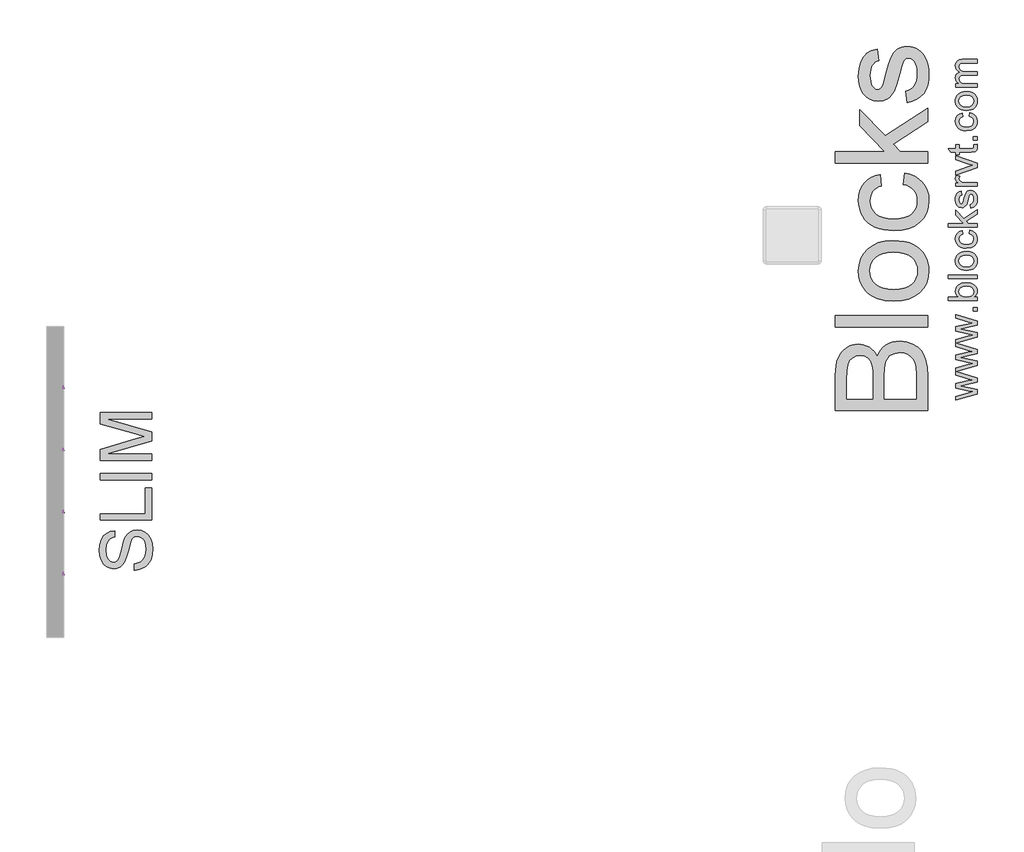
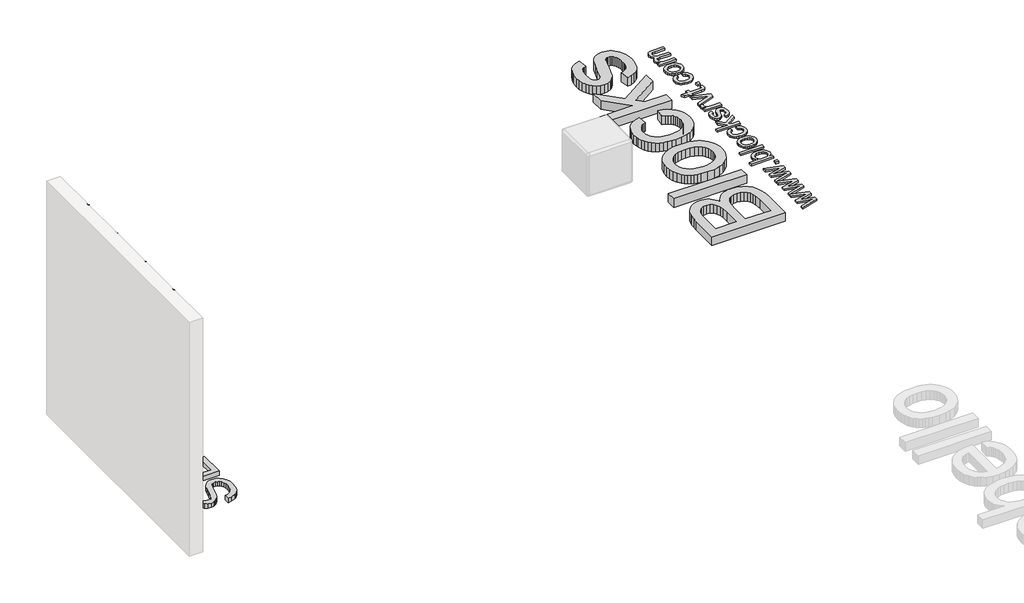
# One storey, part 4 of 4: 15 proxies.
"""IFC4 building model written with IfcOpenShell, lengths in millimetres."""

from ifc_helpers import new_model, si_unit, origin, origin_with_axes, place, context, project, spatial, polyline, outline, extrude, transform, mapped, element, save
from components import black_mate_18039f9f, black_mate_524d391c

model = new_model("IFC4")

# Units and contexts
model_context = context("Model", 3, world=origin())
ifc_project = project(units=[si_unit("LENGTHUNIT", "METRE", prefix="MILLI")], contexts=[model_context])

# Site, building, storey
site = spatial("IfcSite", under=ifc_project)
building = spatial("IfcBuilding", under=site)
storey = spatial("IfcBuildingStorey", under=building, Name="PORTOBELLO - SHOWROOM", Elevation=0.0)

# Proxies
placement = place(None, origin())
element("IfcBuildingElementProxy", 1, Name="25mm Arial", ObjectType="25mm Arial", at=placement, inside=storey, context=model_context, shape_type="SweptSolid", body=[
    extrude(outline(polyline([(63153.2790419, 27046.7572012), (62975.2590594, 26992.3687824), (63153.2790419, 26937.802817), (63153.2790419, 26899.9109715), (63045.1217353, 26875.7533871), (63011.3992191, 26868.7636292), (63153.2790419, 26837.6776006), (63153.2790419, 26799.5405005), (62975.2590594, 26745.1520816), (63153.2790419, 26690.5861162), (63153.2790419, 26652.6942707), (63045.1217353, 26628.5366864), (63011.3992191, 26621.5469285), (63153.2790419, 26590.4608999), (63153.2790419, 26552.3237997), (62968.847535, 26495.9765408), (62968.847535, 26528.5340974), (63076.4530186, 26560.4172036), (63114.8966871, 26569.9208218), (63077.8632329, 26577.7076574), (62968.847535, 26603.0302014), (62968.847535, 26640.3089102), (63077.5566646, 26665.6314542), (63111.0952398, 26672.5598985), (63075.7172546, 26682.4927123), (62968.847535, 26714.3758186), (62968.847535, 26743.1932415), (62968.847535, 26747.1173162), (62968.847535, 26775.7507981), (63076.4530186, 26807.6339044), (63114.8966871, 26817.1375226), (63077.8632329, 26824.9243581), (62968.847535, 26850.2469021), (62968.847535, 26887.525611), (63077.5566646, 26912.848155), (63111.0952398, 26919.7765992), (63075.7172546, 26929.7094131), (62968.847535, 26961.5925194), (62968.847535, 26990.4099423), (62968.847535, 26994.3340169), (62968.847535, 27022.9674989), (63076.4530186, 27054.8506051), (63114.8966871, 27064.3542233), (63077.8632329, 27072.1410589), (62968.847535, 27097.4636029), (62968.847535, 27134.7423117), (63077.5566646, 27160.0648557), (63111.0952398, 27166.9933), (63075.7172546, 27176.9261139), (62968.847535, 27208.8092201), (62968.847535, 27241.5507177), (63153.2790419, 27185.0195178), (63153.2790419, 27147.1276723), (63045.1217353, 27122.9700879), (63011.3992191, 27115.98033), (63153.2790419, 27084.8943014), (63153.2790419, 27046.7572012)])), origin_with_axes(), (0.0, 0.0, 1.0), 20.0),
    extrude(outline(polyline([(63153.2790419, 27270.9812773), (63121.886445, 27270.9812773), (63121.886445, 27302.3738742), (63153.2790419, 27302.3738742), (63153.2790419, 27270.9812773)])), origin_with_axes(), (0.0, 0.0, 1.0), 20.0),
    extrude(outline(polyline([(63153.2790419, 27392.6275904), (63153.2790419, 27361.2349934), (62902.1382665, 27361.2349934), (62902.1382665, 27392.6275904), (62995.273725, 27392.6275904), (62981.9954842, 27402.9512789), (62972.5110265, 27414.6085396), (62966.8203519, 27427.5993725), (62964.9234604, 27441.9237777), (62966.6325788, 27458.0952571), (62971.7599341, 27473.3776883), (62979.9836295, 27486.8973516), (62990.9817684, 27497.7805273), (63020.8721805, 27512.7717186), (63058.3041735, 27518.1979781), (63100.2120641, 27512.5801134), (63117.1423001, 27505.5577826), (63131.3900632, 27495.7265195), (63142.683274, 27483.9255549), (63150.7498532, 27470.9941195), (63155.5898007, 27456.9322135), (63157.2031165, 27441.7398367), (63155.122284, 27426.9440827), (63148.8797864, 27413.8267903), (63138.4756237, 27402.3879596), (63123.909796, 27392.6275904), (63153.2790419, 27392.6275904)]), holes=[polyline([(63059.7757015, 27392.6275904), (63085.9566368, 27394.7735687), (63103.6762862, 27401.2115036), (63120.2769613, 27417.6588945), (63125.8105196, 27439.0420354), (63121.7331608, 27457.1602237), (63109.5010845, 27472.6419243), (63089.1909327, 27483.2645169), (63060.8793474, 27486.8053811), (63032.153895, 27483.4101369), (63012.0736694, 27473.2244041), (63000.2554603, 27458.2255486), (62996.3160573, 27440.3909361), (63000.3934161, 27422.2727478), (63012.6254924, 27406.7910472), (63032.5677622, 27396.1684546), (63059.7757015, 27392.6275904)])]), origin_with_axes(), (0.0, 0.0, 1.0), 20.0),
    extrude(outline(polyline([(63153.2790419, 27553.5146496), (62902.1382665, 27553.5146496), (62902.1382665, 27584.9072465), (63153.2790419, 27584.9072465), (63153.2790419, 27553.5146496)])), origin_with_axes(), (0.0, 0.0, 1.0), 20.0),
    extrude(outline(polyline([(63061.0632884, 27624.1479927), (63037.1777835, 27625.8456148), (63016.5955523, 27630.9384812), (62999.3165948, 27639.4265918), (62985.3409111, 27651.3099466), (62970.0278231, 27676.4792065), (62964.9234604, 27706.6148733), (62966.4773786, 27723.9340678), (62971.1391332, 27739.5939613), (62978.9087243, 27753.5945537), (62989.7861519, 27765.935845), (63003.4035339, 27776.0085306), (63019.3929883, 27783.2033061), (63037.7545152, 27787.5201714), (63058.4881145, 27788.9591265), (63090.2026081, 27786.4146094), (63114.3448641, 27778.781058), (63132.4247313, 27766.2807343), (63145.9520588, 27749.1359005), (63154.3903521, 27728.7720993), (63157.2031165, 27706.6148733), (63155.6549465, 27689.0427598), (63151.0104363, 27673.2372464), (63143.269586, 27659.198333), (63132.4323955, 27646.9260195), (63118.6828059, 27636.9606328), (63102.2047582, 27629.8424994), (63082.9982524, 27625.5716193), (63061.0632884, 27624.1479927)]), holes=[polyline([(63061.0019748, 27655.5405896), (63089.4131947, 27659.1734243), (63109.6543686, 27670.0719284), (63121.7714819, 27686.473334), (63125.8105196, 27706.6148733), (63121.7484892, 27726.664442), (63109.5623981, 27743.0351908), (63089.0529769, 27753.9336949), (63060.0209561, 27757.5665296), (63032.4374707, 27753.9107023), (63012.4722082, 27742.9432203), (63000.355095, 27726.5494789), (62996.3160573, 27706.6148733), (63000.3397666, 27686.473334), (63012.4108946, 27670.0719284), (63032.6060833, 27659.1734243), (63061.0019748, 27655.5405896)])]), origin_with_axes(), (0.0, 0.0, 1.0), 20.0),
    extrude(outline(polyline([(63086.5697734, 27941.9980365), (63090.4938481, 27973.3906334), (63118.4145587, 27964.6381076), (63139.5141239, 27948.1907167), (63152.7808684, 27925.5966309), (63157.2031165, 27898.4040201), (63155.6606946, 27880.7974177), (63151.0334289, 27865.0110648), (63143.3213194, 27851.0449613), (63132.524366, 27838.8991073), (63118.8456704, 27829.0678442), (63102.4883339, 27822.0455134), (63061.7377388, 27816.4276488), (63033.8016998, 27818.826546), (63009.590466, 27826.0232375), (62990.0390708, 27838.1326865), (62976.0825476, 27855.2698561), (62967.7132322, 27875.7716132), (62964.9234604, 27897.9748244), (62968.7555645, 27924.5006491), (62980.2518768, 27945.7075133), (62998.7992608, 27960.9209666), (63023.7845796, 27969.4665588), (63027.7086542, 27938.0739619), (63014.0127141, 27932.3794552), (63004.1948634, 27923.5119662), (62998.2857588, 27911.9620044), (62996.3160573, 27898.2200791), (63000.1941467, 27877.9329199), (63011.8284148, 27861.8304184), (63031.8473267, 27851.3227889), (63060.8793474, 27847.8202457), (63090.3022429, 27851.2461468), (63110.3901326, 27861.5238501), (63121.9554229, 27877.3351116), (63125.8105196, 27897.3616877), (63123.4039582, 27913.6174734), (63116.1842741, 27926.9455315), (63103.9675261, 27936.6407549), (63086.5697734, 27941.9980365)])), origin_with_axes(), (0.0, 0.0, 1.0), 20.0),
    extrude(outline(polyline([(63153.2790419, 28000.8591557), (62902.1382665, 28000.8591557), (62902.1382665, 28032.2517526), (63037.0896451, 28032.2517526), (62968.847535, 28102.6398411), (62968.847535, 28146.0499165), (63037.9480364, 28074.7421231), (63153.2790419, 28149.9739911), (63153.2790419, 28113.3084189), (63059.7757015, 28052.2400077), (63079.2121335, 28032.2517526), (63153.2790419, 28032.2517526), (63153.2790419, 28000.8591557)])), origin_with_axes(), (0.0, 0.0, 1.0), 20.0),
    extrude(outline(polyline([(63098.3419973, 28165.6702896), (63094.4179227, 28197.0628865), (63107.8456155, 28202.013965), (63117.7171157, 28211.5942253), (63123.7871686, 28225.864981), (63125.8105196, 28244.8875459), (63123.9557812, 28263.6801844), (63118.391566, 28276.8932794), (63110.328819, 28284.7107718), (63100.9784849, 28287.3166026), (63092.9770515, 28284.6954434), (63086.8763418, 28276.8319658), (63077.9245466, 28244.5196639), (63062.5654733, 28197.2468275), (63054.8476156, 28185.2829984), (63044.631226, 28176.6147789), (63032.5677622, 28171.3494679), (63019.308682, 28169.5943642), (62995.9175185, 28175.2352214), (62978.0445849, 28190.6249516), (62968.7555645, 28210.5825498), (62964.9234604, 28237.5912196), (62966.4639662, 28258.0239988), (62971.0854838, 28275.7896335), (62978.3358248, 28290.0757176), (62987.7628009, 28300.0698451), (63000.0638551, 28306.691721), (63015.9364304, 28310.8610503), (63019.860505, 28279.4684534), (63009.9813406, 28275.5060577), (63002.5393944, 28267.6655727), (62997.8718916, 28255.8703563), (62996.3160573, 28240.0437663), (62997.8029137, 28222.0175485), (63002.2634829, 28210.00007), (63008.7014178, 28203.2402383), (63016.1203714, 28200.9869611), (63025.2561076, 28204.7270947), (63032.1845518, 28216.4380049), (63038.8677414, 28243.4773315), (63053.6443349, 28289.5545514), (63060.7107349, 28301.7253141), (63070.3829657, 28310.9530208), (63082.6916841, 28316.7701549), (63097.667547, 28318.7091996), (63113.1492476, 28316.4329297), (63127.7112432, 28309.6041202), (63140.2115669, 28298.483354), (63149.5082515, 28283.3312144), (63155.2794003, 28265.0290851), (63157.2031165, 28244.4583502), (63153.4936397, 28212.8051702), (63142.3652094, 28189.7052466), (63123.9404528, 28174.2848596), (63098.3419973, 28165.6702896)])), origin_with_axes(), (0.0, 0.0, 1.0), 20.0),
    extrude(outline(polyline([(63153.2790419, 28517.1202223), (62968.847535, 28452.1277365), (62968.847535, 28485.2984297), (63079.3347609, 28524.6618032), (63116.4908424, 28536.4953407), (63081.4194255, 28548.0836236), (62968.847535, 28587.630938), (62968.847535, 28620.8629449), (63153.2790419, 28556.7901641), (63153.2790419, 28517.1202223)])), origin_with_axes(), (0.0, 0.0, 1.0), 20.0),
    extrude(outline(polyline([(63153.2790419, 28354.0258711), (62968.847535, 28354.0258711), (62968.847535, 28381.4943934), (62996.1321163, 28381.4943934), (62980.3131905, 28391.6418051), (62970.9935133, 28400.9921391), (62964.9234604, 28420.6125122), (62967.3453502, 28436.247497), (62974.6110196, 28452.1277365), (63002.7539922, 28441.6430996), (62996.3160573, 28419.5701799), (62997.8642274, 28410.1968532), (63002.5087375, 28401.8198736), (63019.676564, 28390.5075023), (63056.3421362, 28385.418468), (63153.2790419, 28385.418468), (63153.2790419, 28354.0258711)])), origin_with_axes(), (0.0, 0.0, 1.0), 20.0),
    extrude(outline(polyline([(63127.0981066, 28715.0407357), (63154.1987469, 28718.9648103), (63157.2031165, 28695.4816763), (63155.9002011, 28680.4138429), (63151.9914549, 28669.1781136), (63138.3185074, 28656.0569891), (63102.6952676, 28652.2555419), (63000.2401319, 28652.2555419), (63000.2401319, 28628.7110942), (62968.847535, 28628.7110942), (62968.847535, 28652.2555419), (62924.0272452, 28652.2555419), (62905.5718318, 28683.6481388), (62968.847535, 28683.6481388), (62968.847535, 28715.0407357), (63000.2401319, 28715.0407357), (63000.2401319, 28683.6481388), (63101.7755626, 28683.6481388), (63117.9623704, 28685.3036078), (63123.6951981, 28690.6685535), (63125.8105196, 28701.3677882), (63127.0981066, 28715.0407357)])), origin_with_axes(), (0.0, 0.0, 1.0), 20.0),
    extrude(outline(polyline([(63153.2790419, 28754.2814818), (63121.886445, 28754.2814818), (63121.886445, 28785.6740788), (63153.2790419, 28785.6740788), (63153.2790419, 28754.2814818)])), origin_with_axes(), (0.0, 0.0, 1.0), 20.0),
    extrude(outline(polyline([(63086.5697734, 28962.2574365), (63090.4938481, 28993.6500334), (63118.4145587, 28984.8975076), (63139.5141239, 28968.4501167), (63152.7808684, 28945.8560308), (63157.2031165, 28918.66342), (63155.6606946, 28901.0568177), (63151.0334289, 28885.2704648), (63143.3213194, 28871.3043613), (63132.524366, 28859.1585073), (63118.8456704, 28849.3272442), (63102.4883339, 28842.3049134), (63061.7377388, 28836.6870488), (63033.8016998, 28839.0859459), (63009.590466, 28846.2826375), (62990.0390708, 28858.3920865), (62976.0825476, 28875.5292561), (62967.7132322, 28896.0310131), (62964.9234604, 28918.2342244), (62968.7555645, 28944.7600491), (62980.2518768, 28965.9669132), (62998.7992608, 28981.1803666), (63023.7845796, 28989.7259588), (63027.7086542, 28958.3333618), (63014.0127141, 28952.6388551), (63004.1948634, 28943.7713662), (62998.2857588, 28932.2214044), (62996.3160573, 28918.479479), (63000.1941467, 28898.1923198), (63011.8284148, 28882.0898183), (63031.8473267, 28871.5821889), (63060.8793474, 28868.0796457), (63090.3022429, 28871.5055468), (63110.3901326, 28881.78325), (63121.9554229, 28897.5945116), (63125.8105196, 28917.6210877), (63123.4039582, 28933.8768734), (63116.1842741, 28947.2049315), (63103.9675261, 28956.9001549), (63086.5697734, 28962.2574365)])), origin_with_axes(), (0.0, 0.0, 1.0), 20.0),
    extrude(outline(polyline([(63061.0632884, 29013.2704065), (63037.1777835, 29014.9680286), (63016.5955523, 29020.0608949), (62999.3165948, 29028.5490056), (62985.3409111, 29040.4323604), (62970.0278231, 29065.6016203), (62964.9234604, 29095.737287), (62966.4773786, 29113.0564816), (62971.1391332, 29128.7163751), (62978.9087243, 29142.7169675), (62989.7861519, 29155.0582588), (63003.4035339, 29165.1309444), (63019.3929883, 29172.3257199), (63037.7545152, 29176.6425852), (63058.4881145, 29178.0815403), (63090.2026081, 29175.5370232), (63114.3448641, 29167.9034718), (63132.4247313, 29155.4031481), (63145.9520588, 29138.2583143), (63154.3903521, 29117.894513), (63157.2031165, 29095.737287), (63155.6549465, 29078.1651736), (63151.0104363, 29062.3596602), (63143.269586, 29048.3207468), (63132.4323955, 29036.0484333), (63118.6828059, 29026.0830466), (63102.2047582, 29018.9649132), (63082.9982524, 29014.6940331), (63061.0632884, 29013.2704065)]), holes=[polyline([(63061.0019748, 29044.6630034), (63089.4131947, 29048.2958381), (63109.6543686, 29059.1943422), (63121.7714819, 29075.5957478), (63125.8105196, 29095.737287), (63121.7484892, 29115.7868558), (63109.5623981, 29132.1576046), (63089.0529769, 29143.0561087), (63060.0209561, 29146.6889434), (63032.4374707, 29143.033116), (63012.4722082, 29132.0656341), (63000.355095, 29115.6718927), (62996.3160573, 29095.737287), (63000.3397666, 29075.5957478), (63012.4108946, 29059.1943422), (63032.6060833, 29048.2958381), (63061.0019748, 29044.6630034)])]), origin_with_axes(), (0.0, 0.0, 1.0), 20.0),
    extrude(outline(polyline([(63153.2790419, 29213.3982118), (62968.847535, 29213.3982118), (62968.847535, 29244.7908088), (62999.1977996, 29244.7908088), (62985.2566048, 29254.2331133), (62974.3351081, 29266.3732191), (62967.2763723, 29280.797259), (62964.9234604, 29297.0913657), (62967.3223575, 29314.5504321), (62974.5190491, 29328.5452763), (62986.0383541, 29338.9992563), (63001.4050916, 29345.8357301), (62985.4443779, 29357.278393), (62974.0438682, 29370.3305396), (62967.2035623, 29384.99217), (62964.9234604, 29401.263284), (62968.7172434, 29424.8613812), (62980.0985927, 29442.3127833), (62999.3740764, 29453.0963243), (63026.8502629, 29456.690838), (63153.2790419, 29456.690838), (63153.2790419, 29425.2982411), (63040.3392694, 29425.2982411), (63014.1276772, 29422.3858419), (63001.2211506, 29411.8398914), (62996.3160573, 29393.9056441), (62999.4583827, 29376.8987661), (63008.8853588, 29363.0342134), (63025.2407792, 29353.8141709), (63049.1684373, 29350.7408234), (63153.2790419, 29350.7408234), (63153.2790419, 29319.3482264), (63036.8443904, 29319.3482264), (63019.0940842, 29317.5318091), (63006.4328122, 29312.082557), (62998.845246, 29302.4946325), (62996.3160573, 29288.2621978), (62998.0021831, 29276.1680773), (63003.0605605, 29265.0243185), (63011.3685623, 29255.8272686), (63022.8035609, 29249.5732747), (63060.2662108, 29244.7908088), (63153.2790419, 29244.7908088), (63153.2790419, 29213.3982118)])), origin_with_axes(), (0.0, 0.0, 1.0), 20.0),
])
element("IfcBuildingElementProxy", 2, Name="450mm Arial", ObjectType="450mm Arial", at=placement, inside=storey, context=model_context, shape_type="SweptSolid", body=[
    extrude(outline(polyline([(55835.6499502, 25018.5659846), (55835.6499502, 25074.7730025), (55866.8410028, 25081.2225382), (55891.9118577, 25092.8865922), (55911.8093616, 25111.0825164), (55927.4803612, 25137.1276629), (55937.6486718, 25168.9636691), (55941.0381086, 25204.5321726), (55938.4720168, 25235.846727), (55930.7737411, 25263.2641151), (55918.5882353, 25285.4807073), (55902.5604529, 25301.1928742), (55884.1586924, 25310.5378398), (55864.8512524, 25313.6528283), (55846.0378194, 25311.3200175), (55829.7767559, 25304.3215851), (55815.9033929, 25290.1051617), (55804.2530613, 25266.1183777), (55782.7912019, 25184.2778859), (55768.5885009, 25130.5546254), (55755.0719207, 25096.1799722), (55736.1624308, 25068.199965), (55713.2459953, 25048.3710732), (55686.8166212, 25036.5560726), (55657.3683154, 25032.6177391), (55624.4482383, 25037.4891969), (55593.7511927, 25052.1035705), (55567.7334911, 25076.076632), (55548.851446, 25109.024154), (55537.3657834, 25148.5721582), (55533.5372292, 25192.3466668), (55537.5441748, 25239.7713381), (55549.5650117, 25281.2679255), (55569.3527362, 25315.354408), (55596.660345, 25340.5487646), (55629.7862583, 25356.4942126), (55667.0288966, 25362.833969), (55667.0288966, 25306.6269511), (55649.0936983, 25302.867009), (55633.4913108, 25296.3076939), (55620.221734, 25286.9490059), (55609.2849681, 25274.7909449), (55600.7359027, 25259.6070911), (55594.6294273, 25241.1710246), (55589.7442471, 25194.5422534), (55594.5745377, 25146.8156889), (55600.6124009, 25128.5717362), (55609.0654095, 25114.0740032), (55630.3900446, 25095.1370685), (55642.5549668, 25090.4028348), (55655.7216254, 25088.8247569), (55677.320709, 25093.2982647), (55694.6932882, 25106.718788), (55710.2270637, 25138.4450149), (55726.0901771, 25198.4943093), (55741.1573904, 25260.4647421), (55754.3034654, 25297.9543839), (55774.6949762, 25329.9962264), (55799.861888, 25352.3500428), (55829.5297524, 25365.4823953), (55863.4241211, 25369.8598462), (55898.0732227, 25364.8237193), (55930.6639618, 25349.7153388), (55958.7125811, 25325.1522133), (55979.7353231, 25291.7518517), (55992.8676756, 25251.5863387), (55997.2451265, 25206.7277592), (55992.5246152, 25151.6597019), (55978.3630814, 25106.3345603), (55967.7282087, 25087.19522), (55954.7056354, 25070.2308826), (55939.2953618, 25055.4415483), (55921.4973876, 25042.8272169), (55881.0437038, 25025.235079), (55835.6499502, 25018.5659846)])), origin_with_axes(), (0.0, 0.0, 1.0), 50.0),
    extrude(outline(polyline([(55990.2192493, 25454.170373), (55540.5631065, 25454.170373), (55540.5631065, 25510.3773908), (55934.0122314, 25510.3773908), (55934.0122314, 25735.2054622), (55990.2192493, 25735.2054622), (55990.2192493, 25454.170373)])), origin_with_axes(), (0.0, 0.0, 1.0), 50.0),
    extrude(outline(polyline([(55990.2192493, 25805.4642345), (55540.5631065, 25805.4642345), (55540.5631065, 25861.6712524), (55990.2192493, 25861.6712524), (55990.2192493, 25805.4642345)])), origin_with_axes(), (0.0, 0.0, 1.0), 50.0),
    extrude(outline(polyline([(55990.2192493, 25974.0852881), (55540.5631065, 25974.0852881), (55540.5631065, 26070.4715414), (55857.4960372, 26162.68618), (55923.6929742, 26181.3486664), (55852.0070706, 26201.4382841), (55540.5631065, 26291.8964535), (55540.5631065, 26388.6120448), (55990.2192493, 26388.6120448), (55990.2192493, 26332.4050269), (55596.7701243, 26332.4050269), (55990.2192493, 26219.4420945), (55990.2192493, 26143.3650176), (55596.7701243, 26030.292306), (55990.2192493, 26030.292306), (55990.2192493, 25974.0852881)])), origin_with_axes(), (0.0, 0.0, 1.0), 50.0),
])
element("IfcBuildingElementProxy", 3, Name="80mm Arial", ObjectType="80mm Arial", at=placement, inside=storey, context=model_context, shape_type="SweptSolid", body=[
    extrude(outline(polyline([(62723.8356192, 26408.779317), (61924.4469209, 26408.779317), (61924.4469209, 26713.8194868), (61925.9167442, 26758.0666563), (61930.326214, 26797.7152917), (61937.6753304, 26832.7653927), (61947.9640933, 26863.2169596), (61961.3022821, 26889.8445464), (61977.7996761, 26913.4227073), (61997.4562754, 26933.9514424), (62020.2720798, 26951.4307515), (62044.9602317, 26965.3910232), (62070.2338734, 26975.3626458), (62096.0930049, 26981.3456194), (62122.5376262, 26983.3399439), (62146.9635275, 26981.6627597), (62170.6697643, 26976.631207), (62193.6563366, 26968.2452858), (62215.9232444, 26956.5049962), (62236.7752186, 26941.373745), (62255.51699, 26922.814939), (62272.1485588, 26900.8285784), (62286.6699248, 26875.4146631), (62299.5263043, 26905.5734851), (62316.2371582, 26932.0364029), (62336.8024863, 26954.8034165), (62361.2222888, 26973.874526), (62388.7525056, 26988.9447887), (62418.649077, 26999.7092621), (62450.9120028, 27006.1679461), (62485.5412831, 27008.3208408), (62541.2847883, 27002.4415477), (62592.9786558, 26984.8036684), (62636.9391793, 26958.4810241), (62669.4826523, 26926.5474363), (62693.0486155, 26887.4415988), (62710.0766097, 26839.6022056), (62720.3958668, 26781.4679506), (62723.8356192, 26711.4775277), (62723.8356192, 26408.779317)]), holes=[polyline([(62249.1985796, 26508.7029043), (62249.1985796, 26691.1805491), (62247.0517838, 26754.9989339), (62240.6113963, 26797.7396871), (62225.8033842, 26835.0402645), (62203.6279592, 26861.8508168), (62174.426657, 26878.0249717), (62138.5410132, 26883.4163566), (62103.7043719, 26878.3909028), (62073.3564856, 26863.3145412), (62049.6685453, 26838.8703434), (62034.8117424, 26805.7413806), (62026.9808167, 26754.9013523), (62024.3705082, 26677.3239579), (62024.3705082, 26508.7029043), (62249.1985796, 26508.7029043)]), polyline([(62623.9120319, 26508.7029043), (62623.9120319, 26713.6243235), (62620.0087668, 26787.786361), (62611.3483973, 26822.2082803), (62598.2480637, 26850.5313479), (62579.4879957, 26873.5606122), (62553.8484229, 26892.1011216), (62522.4759294, 26904.3232205), (62486.5170994, 26908.3972535), (62444.7521625, 26903.6157537), (62408.8421234, 26889.2712543), (62393.5766974, 26878.2262338), (62380.7630098, 26864.2171713), (62370.4010607, 26847.2440668), (62362.49085, 26827.3069204), (62352.4643377, 26775.0275631), (62349.1221669, 26703.8661607), (62349.1221669, 26508.7029043), (62623.9120319, 26508.7029043)])]), origin_with_axes(), (0.0, 0.0, 1.0), 100.0),
    extrude(outline(polyline([(62723.8356192, 27133.2253249), (61924.4469209, 27133.2253249), (61924.4469209, 27233.1489122), (62723.8356192, 27233.1489122), (62723.8356192, 27133.2253249)])), origin_with_axes(), (0.0, 0.0, 1.0), 100.0),
    extrude(outline(polyline([(62430.3100816, 27358.0533963), (62354.2817955, 27363.4569789), (62320.2105601, 27370.2114573), (62288.7679298, 27379.6677269), (62259.9539047, 27391.8257879), (62233.7684846, 27406.6856402), (62210.2116697, 27424.2472839), (62189.2834599, 27444.5107189), (62160.850613, 27482.5919493), (62140.5414366, 27524.6252356), (62128.3559308, 27570.6105779), (62124.2940955, 27620.5479762), (62129.2402643, 27675.6754973), (62144.0787706, 27725.5214127), (62168.8096145, 27770.0857226), (62203.432796, 27809.3684268), (62246.7773354, 27841.4300905), (62297.6722534, 27864.3312789), (62356.1175499, 27878.0719919), (62422.1132248, 27882.6522296), (62475.6001548, 27880.6274108), (62523.0614192, 27874.5529544), (62564.4970181, 27864.4288605), (62599.9069514, 27850.255129), (62630.492693, 27832.2086266), (62657.4557166, 27810.4662201), (62680.7960223, 27785.0279094), (62700.5136101, 27755.8936945), (62716.1815603, 27724.1979619), (62727.3729533, 27691.075098), (62734.0877891, 27656.5251027), (62736.3260676, 27620.5479762), (62731.3981954, 27564.6154067), (62716.6145787, 27514.3059785), (62691.9752176, 27469.6196916), (62657.4801121, 27430.556546), (62613.7147518, 27398.836418), (62561.2646266, 27376.1791837), (62500.1297366, 27362.5848431), (62430.3100816, 27358.0533963)]), holes=[polyline([(62430.1149183, 27457.9769836), (62478.5824933, 27460.8678393), (62520.5486923, 27469.5404065), (62556.0135153, 27483.9946852), (62584.9769623, 27504.2306754), (62607.4756264, 27528.8456411), (62623.5461008, 27556.4368464), (62633.1883855, 27587.0042915), (62636.4024804, 27620.5479762), (62633.1700889, 27653.920893), (62623.4729146, 27684.366361), (62607.3109574, 27711.8843802), (62584.6842174, 27736.4749505), (62555.4341243, 27756.7109407), (62519.4021081, 27771.1652193), (62476.5881687, 27779.8377865), (62426.9923062, 27782.7286423), (62380.0616419, 27779.81949), (62339.1932362, 27771.0920331), (62304.3870892, 27756.5462717), (62275.6432008, 27736.1822056), (62253.1445367, 27711.5001525), (62237.0740623, 27684.0004299), (62227.4317777, 27653.6830378), (62224.2176828, 27620.5479762), (62227.4195799, 27587.0042915), (62237.0252715, 27556.4368464), (62253.0347574, 27528.8456411), (62275.4480376, 27504.2306754), (62304.3261007, 27483.9946852), (62339.7299352, 27469.5404065), (62381.659541, 27460.8678393), (62430.1149183, 27457.9769836)])]), origin_with_axes(), (0.0, 0.0, 1.0), 100.0),
    extrude(outline(polyline([(62511.4979962, 28369.7797176), (62523.9884447, 28469.7033049), (62571.1386676, 28458.8351511), (62612.8609125, 28441.8437501), (62649.1551794, 28418.7291019), (62680.0214682, 28389.4912065), (62704.6547304, 28355.3620321), (62722.2499178, 28317.5735465), (62732.8070302, 28276.1257499), (62736.3260676, 28231.0186423), (62731.416492, 28174.9762934), (62716.687765, 28124.7278538), (62692.1398866, 28080.2733233), (62657.7728569, 28041.6127019), (62614.2331542, 28010.3194935), (62562.1672567, 27987.9672018), (62501.5751644, 27974.5558268), (62432.4568774, 27970.0853685), (62386.5142271, 27971.9943091), (62343.5356187, 27977.7211309), (62303.5210523, 27987.2658339), (62266.4705278, 28000.6284181), (62233.1281052, 28017.9003663), (62204.2378444, 28039.1731612), (62179.7997454, 28064.4468029), (62159.8138082, 28093.7212914), (62144.2739339, 28125.6731758), (62133.1740236, 28158.9790053), (62126.5140775, 28193.6387798), (62124.2940955, 28229.6524995), (62127.3435214, 28273.985053), (62136.491799, 28314.0850033), (62151.7389284, 28349.9523505), (62173.0849096, 28381.5870946), (62200.0418344, 28408.4525367), (62232.1217947, 28430.0119776), (62269.3247904, 28446.2654176), (62311.6508217, 28457.2128565), (62324.1412701, 28357.2892692), (62300.8009644, 28349.4888378), (62280.5466777, 28339.1634818), (62263.3784099, 28326.3132011), (62249.2961612, 28310.9379958), (62238.3243269, 28293.4281924), (62230.4873024, 28274.1741174), (62225.7850877, 28253.1757708), (62224.2176828, 28230.4331525), (62227.3037018, 28196.4808448), (62236.5617587, 28165.8585101), (62251.9918537, 28138.5661484), (62273.5939867, 28114.6037598), (62301.8682634, 28095.093533), (62337.3147899, 28081.1576568), (62379.933566, 28072.796131), (62429.7245918, 28070.0089557), (62480.2657764, 28072.7351425), (62523.3785595, 28080.9137027), (62559.0629411, 28094.5446364), (62587.3189214, 28113.6279436), (62608.7929784, 28137.1146217), (62624.1315906, 28163.9556683), (62633.3347579, 28194.1510834), (62636.4024804, 28227.7008669), (62634.4874409, 28254.7370768), (62628.7423225, 28279.4435253), (62619.1671253, 28301.8202124), (62605.7618491, 28321.8671382), (62588.3801216, 28339.0232082), (62566.8755703, 28352.7273281), (62541.2481951, 28362.9794979), (62511.4979962, 28369.7797176)])), origin_with_axes(), (0.0, 0.0, 1.0), 100.0),
    extrude(outline(polyline([(62723.8356192, 28557.1364438), (61924.4469209, 28557.1364438), (61924.4469209, 28657.0600311), (62354.0012483, 28657.0600311), (62136.7845439, 28881.1074495), (62136.7845439, 29019.283035), (62356.7335339, 28792.3081678), (62723.8356192, 29031.7734834), (62723.8356192, 28915.0658561), (62426.2116532, 28720.6832527), (62488.0784055, 28657.0600311), (62723.8356192, 28657.0600311), (62723.8356192, 28557.1364438)])), origin_with_axes(), (0.0, 0.0, 1.0), 100.0),
    extrude(outline(polyline([(62548.9693415, 29081.7352771), (62536.4788931, 29181.6588644), (62559.2642033, 29187.6967276), (62579.2196462, 29197.4182973), (62596.345222, 29210.8235735), (62610.6409305, 29227.9125562), (62621.9116086, 29248.7340361), (62629.9620929, 29273.3368041), (62634.7923835, 29301.7208602), (62636.4024804, 29333.8862044), (62634.9265582, 29366.0149555), (62630.4987918, 29393.7037425), (62623.1191812, 29416.9525654), (62612.7877263, 29435.7614243), (62600.4680458, 29450.2766914), (62587.1237581, 29460.6447394), (62572.7548634, 29466.8655682), (62557.3613615, 29468.9391778), (62543.8707014, 29466.8533705), (62531.8925565, 29460.5959486), (62521.4269269, 29450.1669121), (62512.4738125, 29435.566261), (62499.7882009, 29398.1437066), (62483.9799771, 29332.7152249), (62457.6085421, 29241.5251933), (62435.0915813, 29182.2443541), (62410.5254064, 29144.1631237), (62395.2599805, 29129.0562679), (62378.0063288, 29116.5719184), (62339.6079581, 29099.8122737), (62297.4039039, 29094.2257255), (62258.6883929, 29098.7144804), (62222.9491216, 29112.1807451), (62191.6010235, 29133.4047492), (62166.0590324, 29161.1667225), (62149.9824591, 29188.7579278), (62136.491799, 29224.6923624), (62127.3435214, 29266.2377406), (62124.2940955, 29310.6617769), (62129.1975723, 29375.6999321), (62143.9080028, 29432.2484856), (62166.9860578, 29477.7215244), (62181.1231962, 29495.3350083), (62196.9924085, 29509.5331352), (62236.1470368, 29530.6107669), (62286.6699248, 29543.8818683), (62299.1603732, 29443.958281), (62282.467816, 29439.1950778), (62267.7146936, 29431.3458556), (62254.901006, 29420.4106144), (62244.0267533, 29406.3893542), (62235.3602849, 29389.2210864), (62229.1699504, 29368.8448227), (62224.2176828, 29318.4683071), (62228.9503917, 29261.0903097), (62234.866278, 29239.5735607), (62243.1485186, 29222.8383115), (62263.6406606, 29201.3215625), (62275.0577111, 29195.9423752), (62287.2554146, 29194.1493128), (62302.624521, 29197.1255524), (62316.3347398, 29206.0542714), (62328.5812342, 29221.3257962), (62338.3881878, 29243.3304534), (62359.6609827, 29329.3974495), (62385.7640683, 29417.6844276), (62406.6953275, 29476.0626367), (62429.1878928, 29514.8025431), (62459.9748965, 29544.1746132), (62478.5032082, 29554.9756797), (62499.1539203, 29562.6907272), (62521.9270328, 29567.3197556), (62546.8225457, 29568.8627651), (62571.8278379, 29567.0514062), (62596.1012679, 29561.6173292), (62619.6428357, 29552.5605344), (62642.4525413, 29539.8810216), (62663.6216558, 29523.7861518), (62682.2414502, 29504.4832859), (62698.3119246, 29481.9724241), (62711.833079, 29456.2535662), (62722.5487615, 29428.0280802), (62730.2028205, 29397.9973341), (62734.7952559, 29366.1613279), (62736.3260676, 29332.5200616), (62733.3742234, 29278.7403867), (62724.5186906, 29231.7670305), (62709.7594694, 29191.5999928), (62689.0965596, 29158.2392736), (62662.6275429, 29130.9896039), (62630.450001, 29109.1557146), (62592.5639339, 29092.7376057), (62548.9693415, 29081.7352771)])), origin_with_axes(), (0.0, 0.0, 1.0), 100.0),
])
black_mate_shape = black_mate_18039f9f(model_context)
element("IfcBuildingElementProxy", 4, Name="PORTOBELLO - ICON SLIM 0,3X120 : BLACK MATE", ObjectType="PORTOBELLO - ICON SLIM 0,3X120 : BLACK MATE", at=placement, inside=storey, context=model_context, shape_type="MappedRepresentation", body=[
    mapped(black_mate_shape, transform((55225.3154392, 24977.9733076, 600.0), x_axis=(0.0, 1.0, 0.0), y_axis=(0.0, 0.0, 1.0), z_axis=(1.0, 0.0, 0.0))),
])
element("IfcBuildingElementProxy", 5, Name="PORTOBELLO - ICON SLIM 0,3X120 : BLACK MATE", ObjectType="PORTOBELLO - ICON SLIM 0,3X120 : BLACK MATE", at=placement, inside=storey, context=model_context, shape_type="MappedRepresentation", body=[
    mapped(black_mate_shape, transform((55225.3154392, 24977.9733076, 1800.0), x_axis=(0.0, 1.0, 0.0), y_axis=(0.0, 0.0, 1.0), z_axis=(1.0, 0.0, 0.0))),
])
black_mate_2_shape = black_mate_524d391c(model_context)
element("IfcBuildingElementProxy", 6, Name="PORTOBELLO - ICON SLIM 0,3X120 : BLACK MATE", ObjectType="PORTOBELLO - ICON SLIM 0,3X120 : BLACK MATE", at=placement, inside=storey, context=model_context, shape_type="MappedRepresentation", body=[
    mapped(black_mate_2_shape, transform((55225.3154392, 24977.9733076, 3000.0), x_axis=(0.0, 1.0, 0.0), y_axis=(0.0, 0.0, 1.0), z_axis=(1.0, 0.0, 0.0))),
])
element("IfcBuildingElementProxy", 7, Name="PORTOBELLO - ICON SLIM 0,3X120 : GOLD MATE", ObjectType="PORTOBELLO - ICON SLIM 0,3X120 : GOLD MATE", at=placement, inside=storey, context=model_context, shape_type="MappedRepresentation", body=[
    mapped(black_mate_shape, transform((55225.3154392, 25517.9733076, 600.0), x_axis=(0.0, 1.0, 0.0), y_axis=(0.0, 0.0, 1.0), z_axis=(1.0, 0.0, 0.0))),
])
element("IfcBuildingElementProxy", 8, Name="PORTOBELLO - ICON SLIM 0,3X120 : GOLD MATE", ObjectType="PORTOBELLO - ICON SLIM 0,3X120 : GOLD MATE", at=placement, inside=storey, context=model_context, shape_type="MappedRepresentation", body=[
    mapped(black_mate_shape, transform((55225.3154392, 25517.9733076, 1800.0), x_axis=(0.0, 1.0, 0.0), y_axis=(0.0, 0.0, 1.0), z_axis=(1.0, 0.0, 0.0))),
])
element("IfcBuildingElementProxy", 9, Name="PORTOBELLO - ICON SLIM 0,3X120 : GOLD MATE", ObjectType="PORTOBELLO - ICON SLIM 0,3X120 : GOLD MATE", at=placement, inside=storey, context=model_context, shape_type="MappedRepresentation", body=[
    mapped(black_mate_2_shape, transform((55225.3154392, 25517.9733076, 3000.0), x_axis=(0.0, 1.0, 0.0), y_axis=(0.0, 0.0, 1.0), z_axis=(1.0, 0.0, 0.0))),
])
element("IfcBuildingElementProxy", 10, Name="PORTOBELLO - ICON SLIM 0,3X120 : SILVER INOX", ObjectType="PORTOBELLO - ICON SLIM 0,3X120 : SILVER INOX", at=placement, inside=storey, context=model_context, shape_type="MappedRepresentation", body=[
    mapped(black_mate_shape, transform((55225.3154392, 26057.9733076, 600.0), x_axis=(0.0, 1.0, 0.0), y_axis=(0.0, 0.0, 1.0), z_axis=(1.0, 0.0, 0.0))),
])
element("IfcBuildingElementProxy", 11, Name="PORTOBELLO - ICON SLIM 0,3X120 : SILVER INOX", ObjectType="PORTOBELLO - ICON SLIM 0,3X120 : SILVER INOX", at=placement, inside=storey, context=model_context, shape_type="MappedRepresentation", body=[
    mapped(black_mate_shape, transform((55225.3154392, 26057.9733076, 1800.0), x_axis=(0.0, 1.0, 0.0), y_axis=(0.0, 0.0, 1.0), z_axis=(1.0, 0.0, 0.0))),
])
element("IfcBuildingElementProxy", 12, Name="PORTOBELLO - ICON SLIM 0,3X120 : SILVER INOX", ObjectType="PORTOBELLO - ICON SLIM 0,3X120 : SILVER INOX", at=placement, inside=storey, context=model_context, shape_type="MappedRepresentation", body=[
    mapped(black_mate_2_shape, transform((55225.3154392, 26057.9733076, 3000.0), x_axis=(0.0, 1.0, 0.0), y_axis=(0.0, 0.0, 1.0), z_axis=(1.0, 0.0, 0.0))),
])
element("IfcBuildingElementProxy", 13, Name="PORTOBELLO - ICON SLIM 0,3X120 : WHITE MATE", ObjectType="PORTOBELLO - ICON SLIM 0,3X120 : WHITE MATE", at=placement, inside=storey, context=model_context, shape_type="MappedRepresentation", body=[
    mapped(black_mate_shape, transform((55225.3154392, 26597.9733076, 600.0), x_axis=(0.0, 1.0, 0.0), y_axis=(0.0, 0.0, 1.0), z_axis=(1.0, 0.0, 0.0))),
])
element("IfcBuildingElementProxy", 14, Name="PORTOBELLO - ICON SLIM 0,3X120 : WHITE MATE", ObjectType="PORTOBELLO - ICON SLIM 0,3X120 : WHITE MATE", at=placement, inside=storey, context=model_context, shape_type="MappedRepresentation", body=[
    mapped(black_mate_shape, transform((55225.3154392, 26597.9733076, 1800.0), x_axis=(0.0, 1.0, 0.0), y_axis=(0.0, 0.0, 1.0), z_axis=(1.0, 0.0, 0.0))),
])
element("IfcBuildingElementProxy", 15, Name="PORTOBELLO - ICON SLIM 0,3X120 : WHITE MATE", ObjectType="PORTOBELLO - ICON SLIM 0,3X120 : WHITE MATE", at=placement, inside=storey, context=model_context, shape_type="MappedRepresentation", body=[
    mapped(black_mate_2_shape, transform((55225.3154392, 26597.9733076, 3000.0), x_axis=(0.0, 1.0, 0.0), y_axis=(0.0, 0.0, 1.0), z_axis=(1.0, 0.0, 0.0))),
])

save(model, "model.ifc")
